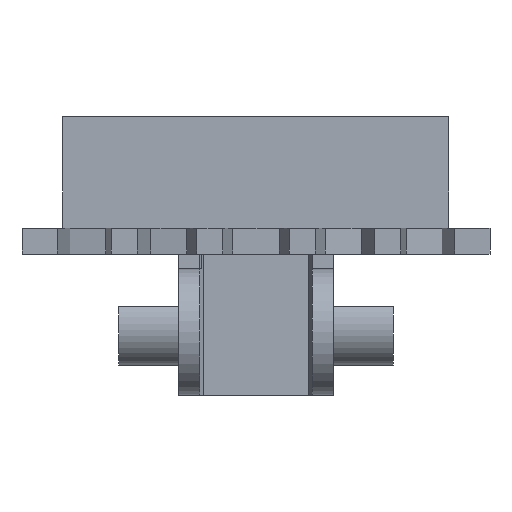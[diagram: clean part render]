
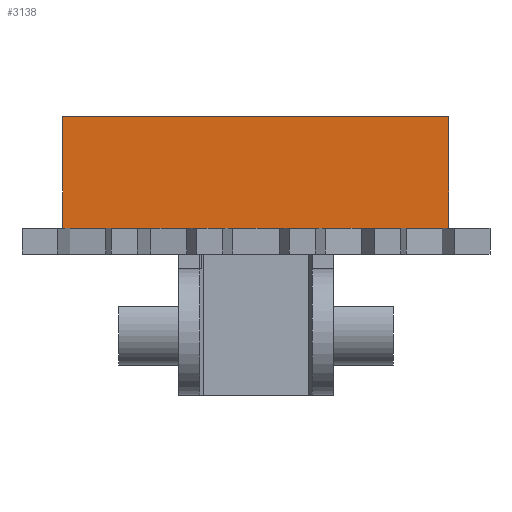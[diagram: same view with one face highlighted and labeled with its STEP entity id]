
A CAD part, left-side view. The second image highlights one B-rep face of the part: STEP entity #3138.
In plain terms, the highlighted planar face has unit normal (-1, 0, 0).
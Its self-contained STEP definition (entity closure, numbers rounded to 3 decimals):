
#1024 = DIRECTION ( 'NONE',  ( 0., 0., -1. ) ) ;
#1025 = VECTOR ( 'NONE', #1024, 1000. ) ;
#1133 = CARTESIAN_POINT ( 'NONE',  ( -4.209, 26., 51.6 ) ) ;
#1134 = LINE ( 'NONE', #1133, #1025 ) ;
#1263 = DIRECTION ( 'NONE',  ( 1., 0., 0. ) ) ;
#1271 = CARTESIAN_POINT ( 'NONE',  ( -4.209, 26., 51.6 ) ) ;
#1276 = CARTESIAN_POINT ( 'NONE',  ( -4.209, -26., 51.6 ) ) ;
#1281 = DIRECTION ( 'NONE',  ( 0., 0., -1. ) ) ;
#1282 = CARTESIAN_POINT ( 'NONE',  ( -4.209, -26., 51.6 ) ) ;
#1289 = LINE ( 'NONE', #1282, #1377 ) ;
#1291 = FACE_OUTER_BOUND ( 'NONE', #3172, .T. ) ;
#1328 = AXIS2_PLACEMENT_3D ( 'NONE', #1374, #1263, #1345 ) ;
#1345 = DIRECTION ( 'NONE',  ( 0., 1., 0. ) ) ;
#1374 = CARTESIAN_POINT ( 'NONE',  ( -4.209, -26., 51.6 ) ) ;
#1376 = PLANE ( 'NONE',  #1328 ) ;
#1377 = VECTOR ( 'NONE', #1281, 1000. ) ;
#1425 = DIRECTION ( 'NONE',  ( 0., -1., 0. ) ) ;
#1426 = VECTOR ( 'NONE', #1425, 1000. ) ;
#1427 = CARTESIAN_POINT ( 'NONE',  ( -4.209, -26., 51.6 ) ) ;
#1428 = LINE ( 'NONE', #1427, #1426 ) ;
#1892 = CARTESIAN_POINT ( 'NONE',  ( -4.209, -26., 36.6 ) ) ;
#1893 = LINE ( 'NONE', #1892, #1914 ) ;
#1914 = VECTOR ( 'NONE', #1919, 1000. ) ;
#1919 = DIRECTION ( 'NONE',  ( 0., -1., 0. ) ) ;
#1928 = CARTESIAN_POINT ( 'NONE',  ( -4.209, 26., 36.6 ) ) ;
#1942 = CARTESIAN_POINT ( 'NONE',  ( -4.209, -26., 36.6 ) ) ;
#2231 = VERTEX_POINT ( 'NONE', #1942 ) ;
#2241 = VERTEX_POINT ( 'NONE', #1928 ) ;
#2243 = EDGE_CURVE ( 'NONE', #2241, #2231, #1893, .T. ) ;
#2968 = EDGE_CURVE ( 'NONE', #3116, #2241, #1134, .T. ) ;
#3116 = VERTEX_POINT ( 'NONE', #1271 ) ;
#3131 = EDGE_CURVE ( 'NONE', #3134, #2231, #1289, .T. ) ;
#3133 = ORIENTED_EDGE ( 'NONE', *, *, #3184, .F. ) ;
#3134 = VERTEX_POINT ( 'NONE', #1276 ) ;
#3137 = ORIENTED_EDGE ( 'NONE', *, *, #2243, .T. ) ;
#3138 = ADVANCED_FACE ( 'NONE', ( #1291 ), #1376, .F. ) ;
#3147 = ORIENTED_EDGE ( 'NONE', *, *, #3131, .F. ) ;
#3172 = EDGE_LOOP ( 'NONE', ( #3137, #3147, #3133, #3180 ) ) ;
#3180 = ORIENTED_EDGE ( 'NONE', *, *, #2968, .T. ) ;
#3184 = EDGE_CURVE ( 'NONE', #3116, #3134, #1428, .T. ) ;
